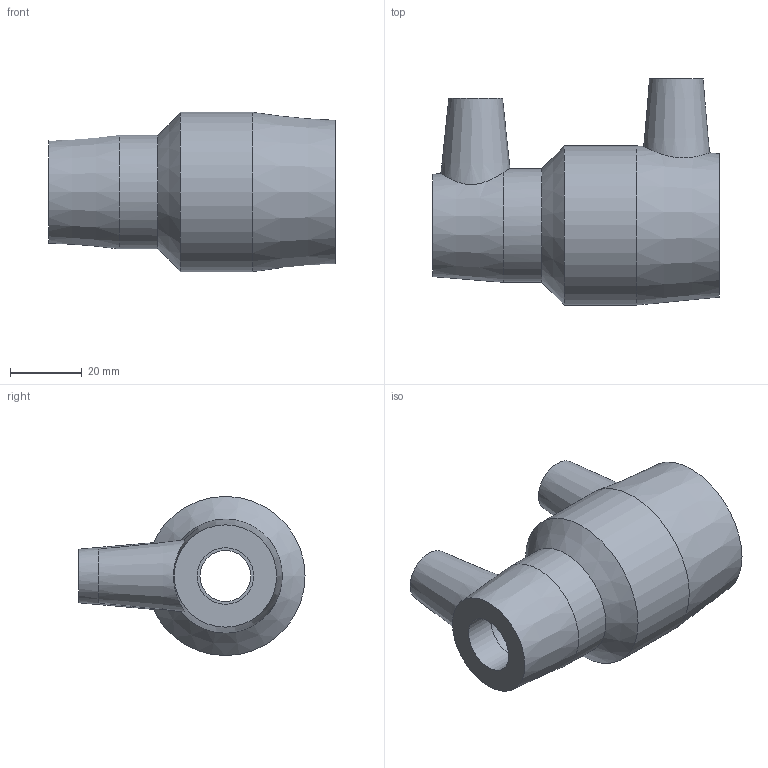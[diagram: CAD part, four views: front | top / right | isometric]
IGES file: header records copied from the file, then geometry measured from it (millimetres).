
Global section: file name: 5911BU03010005.ipt; native system: Autodesk Inventor 2019; preprocessor: unknown; author: KIM; date: 20210830.101026; units: inch
Bounding box: 80.01 x 63.12 x 44.45 mm (x, y, z)
Volume: 57003 mm3; surface area: 20866.2 mm2
Topology: 1 solids, 1 shells, 32 faces, 74 edges, 52 vertices
Faces by surface type: plane 12, revolution 11, cone 5, cylinder 4
Full cylindrical faces by diameter (mm): 4 x2, 31.75 x1, 44.45 x1
